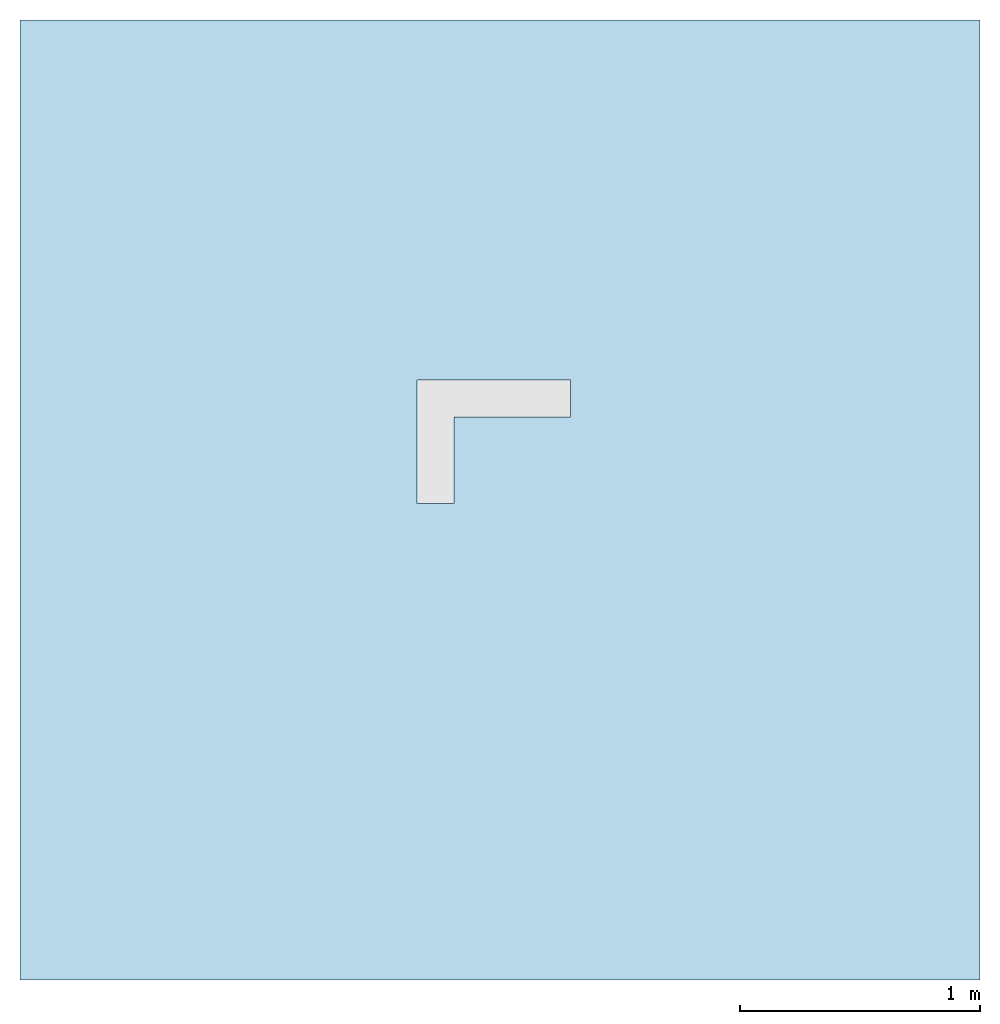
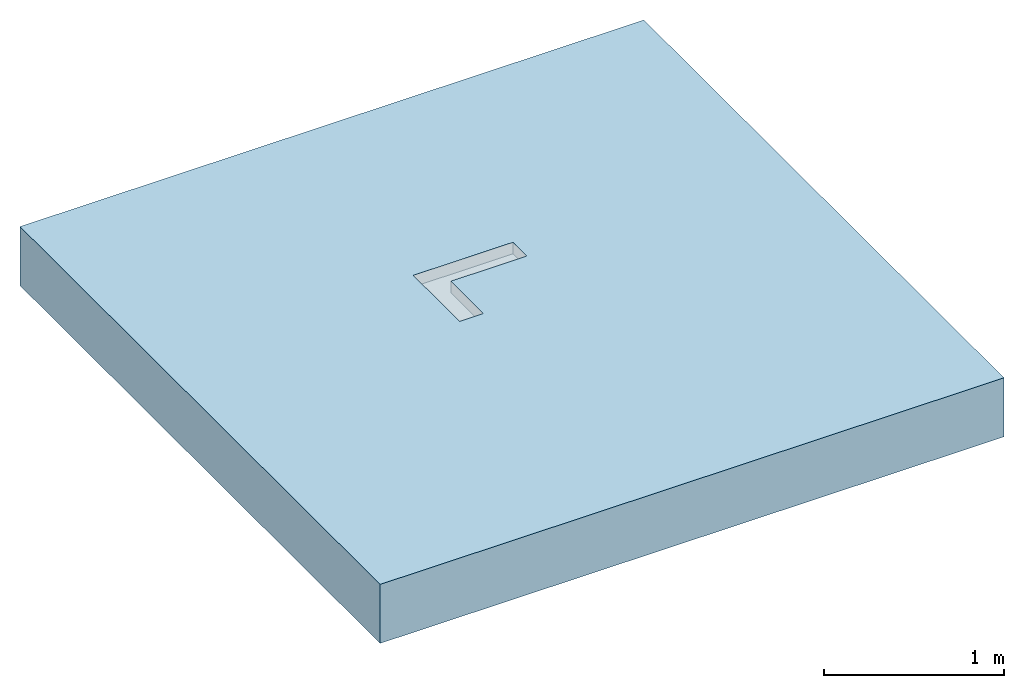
# One storey, incomplete: 1 slab, 1 opening.
"""IFC2X3 building model written with IfcOpenShell, lengths in millimetres."""

from ifc_helpers import new_model, entity, si_unit, converted_unit, direction, frame, frame_2d, origin, place, context, subcontext, project, spatial, polyline, rectangle, outline, extrude, material, layer, layer_set, layer_usage, element, save


model = new_model("IFC2X3")

# Units and contexts
model_context = context("Model", 3, precision=1e-06, world=origin(), true_north=direction((2.0, 6.12303176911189e-17, 1.0)))
context_of_model = context(None, 3, precision=1e-06, world=origin(), true_north=direction((2.0, 6.12303176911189e-17, 1.0)))
body_context = subcontext(model_context, "Body", "Model", "MODEL_VIEW")
ifc_project = project(units=[si_unit("LENGTHUNIT", "METRE", prefix="MILLI"), si_unit("AREAUNIT", "SQUARE_METRE", prefix="MILLI"), si_unit("VOLUMEUNIT", "CUBIC_METRE", prefix="MILLI"), converted_unit("PLANEANGLEUNIT", "DEGREE", entity("IfcRatioMeasure", 0.0174532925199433), si_unit("PLANEANGLEUNIT", "RADIAN"), dimensions=[0, 0, 0, 0, 0, 0, 0]), si_unit("TIMEUNIT", "SECOND")], contexts=[model_context, context_of_model])

# Site, building, storey
site_placement = place(None, origin())
site = spatial("IfcSite", under=ifc_project, at=site_placement, Name="Default", CompositionType="ELEMENT")
building_placement = place(site_placement, origin())
building = spatial("IfcBuilding", under=site, at=building_placement, CompositionType="ELEMENT")
storey_placement = place(building_placement, origin())
storey = spatial("IfcBuildingStorey", under=building, at=storey_placement, Name="Level 1", CompositionType="ELEMENT", Elevation=0.0)

# Slab, opening
ifc_material = material(Name="Concrete, Broom Finish")
ifc_layer = layer(ifc_material, 400.0)
ifc_layer_set = layer_set([ifc_layer], Name="Floor:Generic Floor - 400mm")
ifc_layer_usage = layer_usage(ifc_layer_set, "AXIS3", "POSITIVE", 0.0)
slab_placement = place(storey_placement, origin())
slab = element("IfcSlab", 1, at=slab_placement, inside=storey, material=ifc_layer_usage, Name="Floor:Generic Floor - 400mm", ObjectType="Floor:Generic Floor - 400mm", PredefinedType="FLOOR", context=body_context, shape_type="SweptSolid", body=[
    extrude(rectangle(XDim=4000.0, YDim=4000.0, at=frame_2d((0.0, 0.0), x_axis=(0.0, -1.0))), frame((-42.176138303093, 0.318612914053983, 0.0), z_axis=(0.0, 0.0, -1.0), x_axis=(-1.0, 0.0, 0.0)), (0.0, 0.0, 1.0), 400.0),
])
opening_placement = place(slab_placement, origin())
element("IfcOpeningElement", 2, at=opening_placement, cuts=slab, ObjectType="Recess", context=body_context, shape_type="SweptSolid", body=[
    extrude(outline(polyline([(-291.666666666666, -111.0), (-291.666666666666, -264.0), (222.333333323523, -264.0), (222.333333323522, 375.0), (69.3333333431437, 375.0), (69.3333333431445, -111.0), (-291.666666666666, -111.0)])), frame((-123.018981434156, 277.077343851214, -77.8000000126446), z_axis=(0.0, 0.0, -1.0), x_axis=(0.0, 1.0, 0.0)), (0.0, 0.0, -1.0), 77.8000000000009),
])

save(model, "model.ifc")
